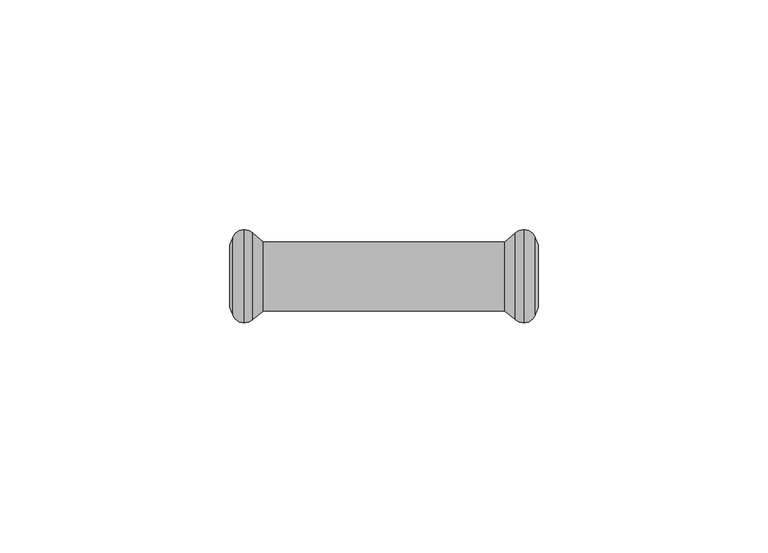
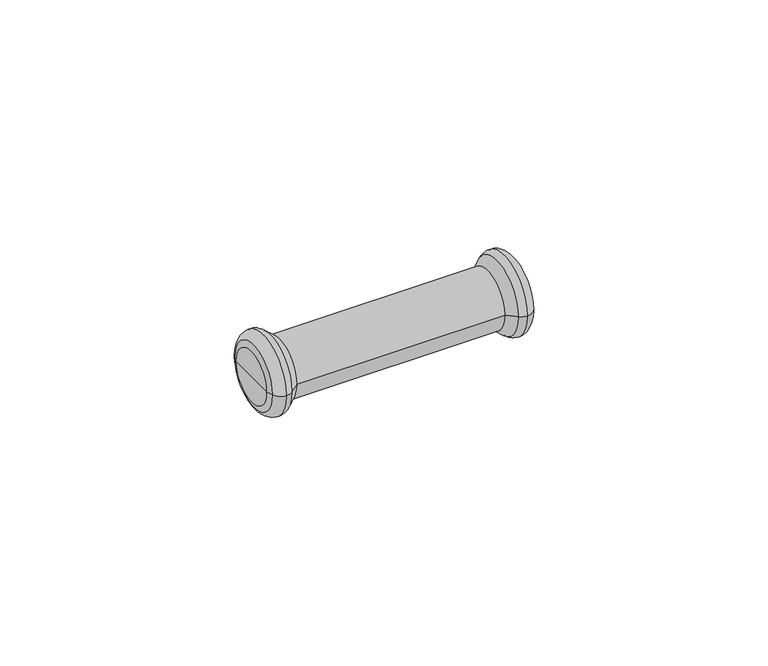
"""IFC4 building model written with IfcOpenShell, lengths in millimetres: pipe fitting geometry, KAN-therm Steel przedłużka : KAN-therm Steel przedłużka."""

from ifc_helpers import new_model, si_unit, point, frame, origin, place, context, project, spatial, polyline, circle_curve, ellipse_curve, trimmed, source, transform, mapped, element, save
from ifc_brep_helpers import plane_surface, cylinder_surface, revolved_surface, advanced_brep


def pipe_fitting_2788c535(model_context):
    return source(origin(), model_context, "Body", "AdvancedBrep", [
        advanced_brep(
        [(28.5922627, -9.4370225, 0.0), (28.5922627, 9.4370225, 0.0), (30.3921278, 10.125, 0.0), (30.3921278, -10.125, 0.0), (26.2838092, -7.5, 0.0), (26.2838092, 7.5, 0.0), (-26.2838092, -7.5, 0.0), (-26.2838092, 7.5, 0.0), (-28.5922627, -9.4370225, 0.0), (-28.5922627, 9.4370225, 0.0), (-30.3921278, -10.125, 0.0), (-30.3921278, 10.125, 0.0), (-32.932052, -8.3484544, 0.0), (-32.932052, 8.3484544, 0.0), (-33.5, -6.7880302, 0.0), (-33.5, 6.7880302, 0.0), (-33.5, 0.0, 0.0), (33.5, -6.7880302, 0.0), (33.5, 6.7880302, 0.0), (33.5, 0.0, 0.0), (32.932052, -8.3484544, 0.0), (32.932052, 8.3484544, 0.0)],
        [
            (0, 1, circle_curve(frame((28.5922627, 0.0, 0.0), z_axis=(1.0, 0.0, 0.0), x_axis=(0.0, 1.0, 0.0)), 9.4370225)),
            (1, 2, circle_curve(frame((30.3935049, 7.4230333, 0.0), z_axis=(0.0, 0.0, -1.0), x_axis=(1.0, 0.0, 0.0)), 2.701967)),
            (2, 3, circle_curve(frame((30.3921278, 0.0, 0.0), z_axis=(-1.0, 0.0, 0.0), x_axis=(0.0, 1.0, 0.0)), 10.125)),
            (3, 0, circle_curve(frame((30.3935049, -7.4230333, 0.0), z_axis=(0.0, 0.0, -1.0), x_axis=(1.0, 0.0, 0.0)), 2.701967)),
            (1, 0, circle_curve(frame((28.5922627, 0.0, 0.0), z_axis=(1.0, 0.0, 0.0), x_axis=(0.0, 1.0, 0.0)), 9.4370225)),
            (3, 2, circle_curve(frame((30.3921278, 0.0, 0.0), z_axis=(-1.0, 0.0, 0.0), x_axis=(0.0, 1.0, 0.0)), 10.125)),
            (4, 5, circle_curve(frame((26.2838092, 0.0, 0.0), z_axis=(1.0, 0.0, 0.0), x_axis=(0.0, 1.0, 0.0)), 7.5)),
            (5, 1),
            (0, 4),
            (5, 4, circle_curve(frame((26.2838092, 0.0, 0.0), z_axis=(1.0, 0.0, 0.0), x_axis=(0.0, 1.0, 0.0)), 7.5)),
            (6, 7, circle_curve(frame((-26.2838092, 0.0, 0.0), z_axis=(1.0, 0.0, 0.0), x_axis=(0.0, 1.0, 0.0)), 7.5)),
            (7, 5),
            (4, 6),
            (7, 6, circle_curve(frame((-26.2838092, 0.0, 0.0), z_axis=(1.0, 0.0, 0.0), x_axis=(0.0, 1.0, 0.0)), 7.5)),
            (8, 9, circle_curve(frame((-28.5922627, 0.0, 0.0), z_axis=(1.0, 0.0, 0.0), x_axis=(0.0, 1.0, 0.0)), 9.4370225)),
            (9, 7),
            (6, 8),
            (9, 8, circle_curve(frame((-28.5922627, 0.0, 0.0), z_axis=(1.0, 0.0, 0.0), x_axis=(0.0, 1.0, 0.0)), 9.4370225)),
            (10, 11, circle_curve(frame((-30.3921278, 0.0, 0.0), z_axis=(1.0, 0.0, 0.0), x_axis=(0.0, 1.0, 0.0)), 10.125)),
            (11, 9, circle_curve(frame((-30.3935049, 7.4230333, 0.0), z_axis=(0.0, 0.0, -1.0), x_axis=(1.0, 0.0, 0.0)), 2.701967)),
            (8, 10, circle_curve(frame((-30.3935049, -7.4230333, 0.0), z_axis=(0.0, 0.0, -1.0), x_axis=(1.0, 0.0, 0.0)), 2.701967)),
            (11, 10, circle_curve(frame((-30.3921278, 0.0, 0.0), z_axis=(1.0, 0.0, 0.0), x_axis=(0.0, 1.0, 0.0)), 10.125)),
            (12, 13, circle_curve(frame((-32.932052, 0.0, 0.0), z_axis=(1.0, 0.0, 0.0), x_axis=(0.0, 1.0, 0.0)), 8.3484544)),
            (13, 11, circle_curve(frame((-30.39488, 7.4249993, 0.0), z_axis=(0.0, 0.0, -1.0), x_axis=(1.0, 0.0, 0.0)), 2.7000021)),
            (10, 12, circle_curve(frame((-30.39488, -7.4249993, 0.0), z_axis=(0.0, 0.0, -1.0), x_axis=(1.0, 0.0, 0.0)), 2.7000021)),
            (13, 12, circle_curve(frame((-32.932052, 0.0, 0.0), z_axis=(1.0, 0.0, 0.0), x_axis=(0.0, 1.0, 0.0)), 8.3484544)),
            (14, 15, circle_curve(frame((-33.5, 0.0, 0.0), z_axis=(1.0, 0.0, 0.0), x_axis=(0.0, 1.0, 0.0)), 6.7880302)),
            (15, 13),
            (12, 14),
            (15, 14, circle_curve(frame((-33.5, 0.0, 0.0), z_axis=(1.0, 0.0, 0.0), x_axis=(0.0, 1.0, 0.0)), 6.7880302)),
            (16, 15),
            (14, 16),
            (17, 18, circle_curve(frame((33.5, 0.0, 0.0), z_axis=(1.0, 0.0, 0.0), x_axis=(0.0, 1.0, 0.0)), 6.7880302)),
            (18, 19),
            (19, 17),
            (18, 17, circle_curve(frame((33.5, 0.0, 0.0), z_axis=(1.0, 0.0, 0.0), x_axis=(0.0, 1.0, 0.0)), 6.7880302)),
            (20, 21, circle_curve(frame((32.932052, 0.0, 0.0), z_axis=(1.0, 0.0, 0.0), x_axis=(0.0, 1.0, 0.0)), 8.3484544)),
            (21, 18),
            (17, 20),
            (21, 20, circle_curve(frame((32.932052, 0.0, 0.0), z_axis=(1.0, 0.0, 0.0), x_axis=(0.0, 1.0, 0.0)), 8.3484544)),
            (2, 21, circle_curve(frame((30.39488, 7.4249993, 0.0), z_axis=(0.0, 0.0, -1.0), x_axis=(1.0, 0.0, 0.0)), 2.7000021)),
            (20, 3, circle_curve(frame((30.39488, -7.4249993, 0.0), z_axis=(0.0, 0.0, -1.0), x_axis=(1.0, 0.0, 0.0)), 2.7000021)),
        ],
        [
            revolved_surface(trimmed(ellipse_curve(frame((30.3935049, 7.4230333, 0.0), z_axis=(0.0, 0.0, 1.0), x_axis=(1.0, 0.0, 0.0)), 2.701967, 2.701967), [point((30.3921278, 10.125, 0.0))], [point((28.5922627, 9.4370225, 0.0))], True, "CARTESIAN"), (1347.242668, 0.0, 0.0), (-1.0, 0.0, 0.0)),
            revolved_surface(polyline([(28.5922627, 9.4370225, 0.0), (26.2838092, 7.5, 0.0)]), (1347.242668, 0.0, 0.0), (-1.0, 0.0, 0.0)),
            cylinder_surface(frame((1347.242668, 0.0, 0.0), z_axis=(-1.0, 0.0, 0.0), x_axis=(0.0, 1.0, 0.0)), 7.5),
            revolved_surface(polyline([(-26.2838092, 7.5, 0.0), (-28.5922627, 9.4370225, 0.0)]), (1347.242668, 0.0, 0.0), (-1.0, 0.0, 0.0)),
            revolved_surface(trimmed(ellipse_curve(frame((-30.3935049, 7.4230333, 0.0), z_axis=(0.0, 0.0, 1.0), x_axis=(1.0, 0.0, 0.0)), 2.701967, 2.701967), [point((-28.5922627, 9.4370225, 0.0))], [point((-30.3921278, 10.125, 0.0))], True, "CARTESIAN"), (1347.242668, 0.0, 0.0), (-1.0, 0.0, 0.0)),
            revolved_surface(trimmed(ellipse_curve(frame((-30.39488, 7.4249993, 0.0), z_axis=(0.0, 0.0, 1.0), x_axis=(1.0, 0.0, 0.0)), 2.7000021, 2.7000021), [point((-30.3921278, 10.125, 0.0))], [point((-32.932052, 8.3484544, 0.0))], True, "CARTESIAN"), (1347.242668, 0.0, 0.0), (-1.0, 0.0, 0.0)),
            revolved_surface(polyline([(-32.932052, 8.3484544, 0.0), (-33.5, 6.7880302, 0.0)]), (1347.242668, 0.0, 0.0), (-1.0, 0.0, 0.0)),
            plane_surface(frame((-33.5, 0.0, 0.0), z_axis=(-1.0, 0.0, 0.0), x_axis=(0.0, 1.0, 0.0))),
            plane_surface(frame((33.5, 0.0, 0.0), z_axis=(1.0, 0.0, 0.0), x_axis=(0.0, 1.0, 0.0))),
            revolved_surface(polyline([(33.5, 6.7880302, 0.0), (32.932052, 8.3484544, 0.0)]), (1347.242668, 0.0, 0.0), (-1.0, 0.0, 0.0)),
            revolved_surface(trimmed(ellipse_curve(frame((30.39488, 7.4249993, 0.0), z_axis=(0.0, 0.0, 1.0), x_axis=(1.0, 0.0, 0.0)), 2.7000021, 2.7000021), [point((32.932052, 8.3484544, 0.0))], [point((30.3921278, 10.125, 0.0))], True, "CARTESIAN"), (1347.242668, 0.0, 0.0), (-1.0, 0.0, 0.0)),
        ],
        [
            (0, [[1, 2, 3, 4]]),
            (0, [[5, -4, 6, -2]]),
            (1, [[7, 8, -1, 9]]),
            (1, [[10, -9, -5, -8]]),
            (2, [[11, 12, -7, 13]]),
            (2, [[14, -13, -10, -12]]),
            (3, [[15, 16, -11, 17]]),
            (3, [[18, -17, -14, -16]]),
            (4, [[19, 20, -15, 21]]),
            (4, [[22, -21, -18, -20]]),
            (5, [[23, 24, -19, 25]]),
            (5, [[26, -25, -22, -24]]),
            (6, [[27, 28, -23, 29]]),
            (6, [[30, -29, -26, -28]]),
            (7, [[31, -27, 32]]),
            (7, [[-32, -30, -31]]),
            (8, [[33, 34, 35]]),
            (8, [[36, -35, -34]]),
            (9, [[37, 38, -33, 39]]),
            (9, [[40, -39, -36, -38]]),
            (10, [[-3, 41, -37, 42]]),
            (10, [[-6, -42, -40, -41]]),
        ],
    ),
    ])


if __name__ == "__main__":
    model = new_model("IFC4")
    model_context = context("Model", 3, world=origin())
    ifc_project = project(units=[si_unit("LENGTHUNIT", "METRE", prefix="MILLI")], contexts=[model_context])
    site = spatial("IfcSite", under=ifc_project)
    building = spatial("IfcBuilding", under=site)
    placement = place(None, origin())
    pipe_fitting_shape = pipe_fitting_2788c535(model_context)
    element("IfcPipeFitting", 1, ObjectType="KAN-therm Steel przedłużka : KAN-therm Steel przedłużka", at=placement, inside=building, context=model_context, shape_type="MappedRepresentation", body=[
        mapped(pipe_fitting_shape, transform((0.0, 0.0, 0.0), x_axis=(1.0, 0.0, 0.0), y_axis=(0.0, 1.0, 0.0), z_axis=(0.0, 0.0, 1.0))),
    ])
    save(model, "model.ifc")
